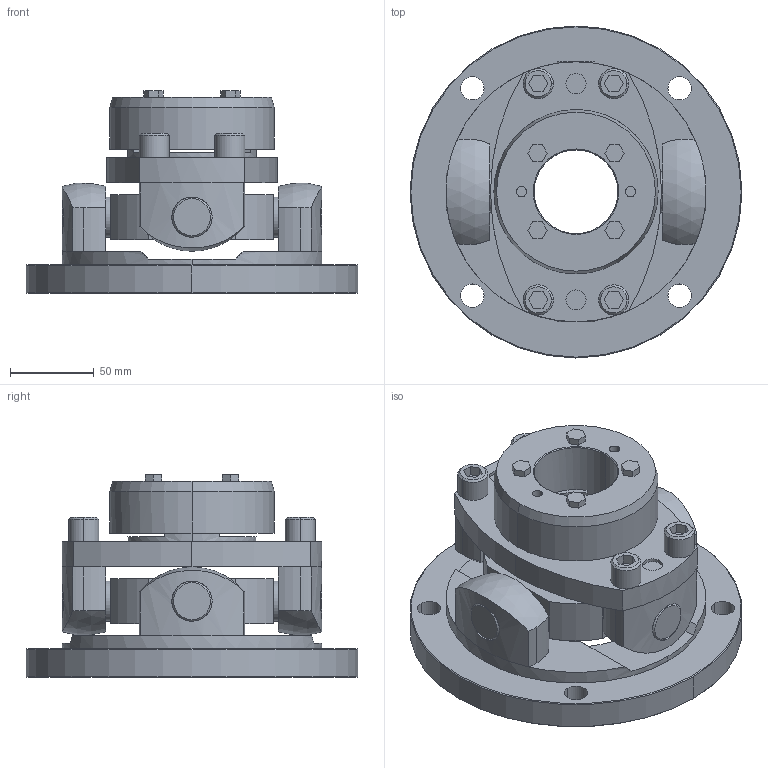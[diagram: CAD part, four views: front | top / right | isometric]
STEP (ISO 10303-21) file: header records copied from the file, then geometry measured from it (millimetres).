
FILE_DESCRIPTION((''),'2;1');
FILE_NAME('UCNF-155T7-50.stp','2011-09-27T13:07:40',(''),(''),'AutoCAD STEP 2000i','AutoCAD 2000i',', , ');
FILE_SCHEMA(('CONFIG_CONTROL_DESIGN'));
Length unit declared in the file: millimetre
Products named in the file (7): UCNF-155T7-50; 忣兜1; UCN155T7-T050; UCNF-15502; UCN155T7-T045-1; UCN155T7-T045; UCN155-SEN
Assembly tree (6 placements, depth 2):
  UCNF-155T7-50
    忣兜1
    UCN155T7-T050
    UCNF-15502
    UCN155T7-T045-1
    UCN155T7-T045
    UCN155-SEN
Bounding box: 198 x 198 x 121 mm (x, y, z)
Volume: 1172812.4 mm3; surface area: 183604.1 mm2
Topology: 1 solids, 1 shells, 282 faces, 695 edges, 453 vertices
Faces by surface type: plane 132, cylinder 108, cone 38, sphere 4
Entity records: 8989 total; most frequent: CARTESIAN_POINT 1841, DIRECTION 1544, ORIENTED_EDGE 1390, EDGE_CURVE 695, AXIS2_PLACEMENT_3D 576, VERTEX_POINT 453, VECTOR 392, LINE 392
